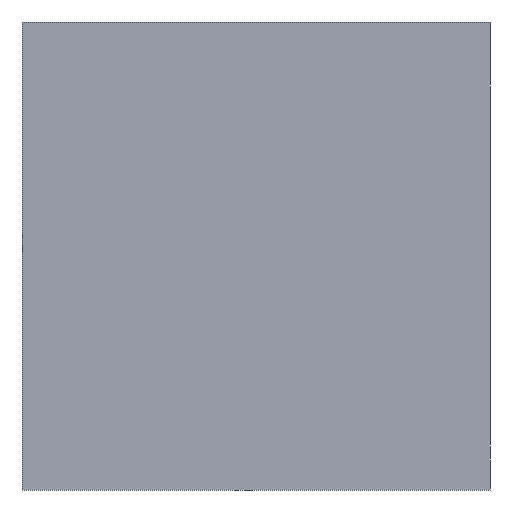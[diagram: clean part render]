
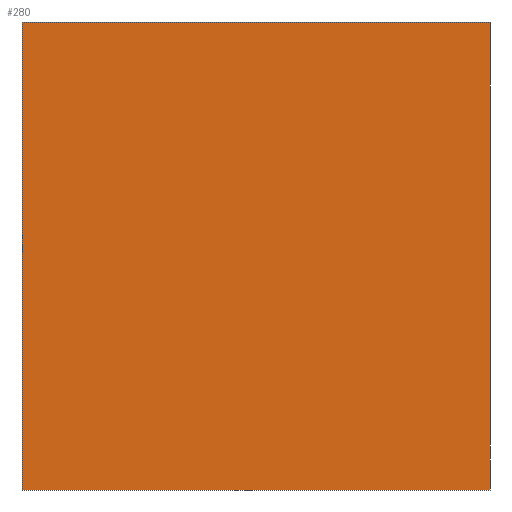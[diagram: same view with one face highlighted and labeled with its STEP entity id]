
A CAD part, front view. The second image highlights one B-rep face of the part: STEP entity #280.
In plain terms, the highlighted planar face has unit normal (0, -1, 0).
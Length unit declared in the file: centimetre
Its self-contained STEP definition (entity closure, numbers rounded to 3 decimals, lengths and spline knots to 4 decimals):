
#1 = VERTEX_POINT ( 'NONE', #213 ) ;
#13 = EDGE_LOOP ( 'NONE', ( #380, #221, #35, #254 ) ) ;
#14 = CARTESIAN_POINT ( 'NONE',  ( 0., 0., 1000. ) ) ;
#17 = VECTOR ( 'NONE', #176, 100. ) ;
#19 = LINE ( 'NONE', #161, #120 ) ;
#35 = ORIENTED_EDGE ( 'NONE', *, *, #214, .F. ) ;
#52 = DIRECTION ( 'NONE',  ( 0., 0., -1. ) ) ;
#56 = LINE ( 'NONE', #402, #383 ) ;
#108 = FACE_OUTER_BOUND ( 'NONE', #13, .T. ) ;
#120 = VECTOR ( 'NONE', #52, 100. ) ;
#133 = EDGE_CURVE ( 'NONE', #302, #287, #19, .T. ) ;
#158 = AXIS2_PLACEMENT_3D ( 'NONE', #253, #295, #264 ) ;
#161 = CARTESIAN_POINT ( 'NONE',  ( 0., 0., 1000. ) ) ;
#176 = DIRECTION ( 'NONE',  ( 1., 0., 0. ) ) ;
#193 = VECTOR ( 'NONE', #340, 100. ) ;
#213 = CARTESIAN_POINT ( 'NONE',  ( 1000., 0., 1000. ) ) ;
#214 = EDGE_CURVE ( 'NONE', #302, #1, #396, .T. ) ;
#217 = CARTESIAN_POINT ( 'NONE',  ( 0., 0., 0. ) ) ;
#221 = ORIENTED_EDGE ( 'NONE', *, *, #420, .F. ) ;
#253 = CARTESIAN_POINT ( 'NONE',  ( 0., 0., 1000. ) ) ;
#254 = ORIENTED_EDGE ( 'NONE', *, *, #133, .T. ) ;
#264 = DIRECTION ( 'NONE',  ( 0., 0., 1. ) ) ;
#269 = EDGE_CURVE ( 'NONE', #287, #471, #56, .T. ) ;
#280 = ADVANCED_FACE ( 'NONE', ( #108 ), #445, .F. ) ;
#287 = VERTEX_POINT ( 'NONE', #217 ) ;
#295 = DIRECTION ( 'NONE',  ( 0., 1., 0. ) ) ;
#302 = VERTEX_POINT ( 'NONE', #14 ) ;
#340 = DIRECTION ( 'NONE',  ( 0., 0., -1. ) ) ;
#345 = CARTESIAN_POINT ( 'NONE',  ( 1000., 0., 1000. ) ) ;
#353 = DIRECTION ( 'NONE',  ( 1., 0., 0. ) ) ;
#363 = CARTESIAN_POINT ( 'NONE',  ( 0., 0., 1000. ) ) ;
#379 = LINE ( 'NONE', #345, #193 ) ;
#380 = ORIENTED_EDGE ( 'NONE', *, *, #269, .T. ) ;
#383 = VECTOR ( 'NONE', #353, 100. ) ;
#396 = LINE ( 'NONE', #363, #17 ) ;
#399 = CARTESIAN_POINT ( 'NONE',  ( 1000., 0., 0. ) ) ;
#402 = CARTESIAN_POINT ( 'NONE',  ( 0., 0., 0. ) ) ;
#420 = EDGE_CURVE ( 'NONE', #1, #471, #379, .T. ) ;
#445 = PLANE ( 'NONE',  #158 ) ;
#471 = VERTEX_POINT ( 'NONE', #399 ) ;
